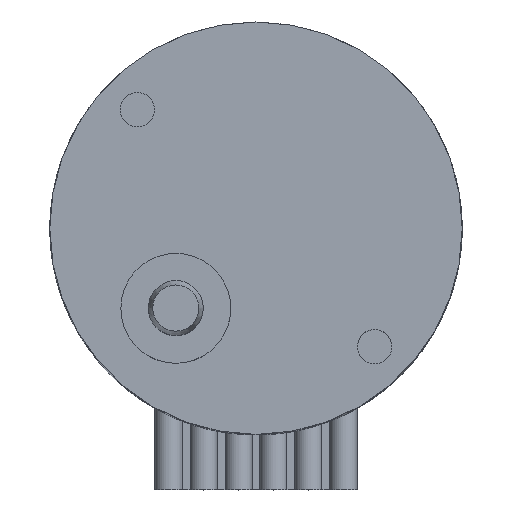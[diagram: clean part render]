
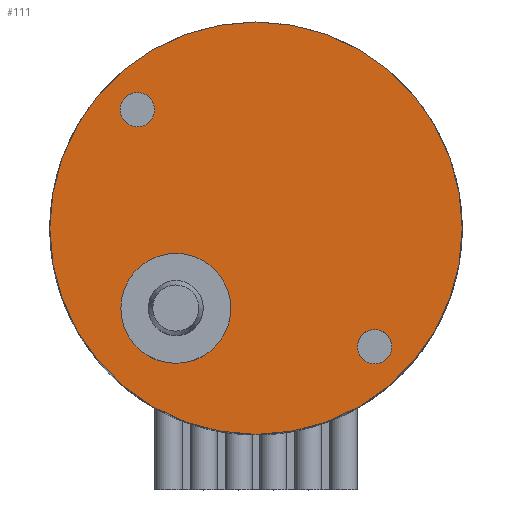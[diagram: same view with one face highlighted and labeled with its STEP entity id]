
A CAD part, top view. The second image highlights one B-rep face of the part: STEP entity #111.
In plain terms, the highlighted planar face has unit normal (0, 0, 1).
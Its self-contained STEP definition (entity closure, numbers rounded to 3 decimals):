
#36=PLANE('',#782);
#67=FACE_BOUND('',#210,.T.);
#68=FACE_BOUND('',#211,.T.);
#69=FACE_BOUND('',#212,.T.);
#70=FACE_BOUND('',#213,.T.);
#111=ADVANCED_FACE('',(#67,#68,#69,#70),#36,.T.);
#210=EDGE_LOOP('',(#350));
#211=EDGE_LOOP('',(#351));
#212=EDGE_LOOP('',(#352));
#213=EDGE_LOOP('',(#353));
#283=CIRCLE('',#776,7.5);
#285=CIRCLE('',#779,2.);
#286=CIRCLE('',#780,0.625);
#287=CIRCLE('',#781,0.625);
#350=ORIENTED_EDGE('',*,*,#598,.F.);
#351=ORIENTED_EDGE('',*,*,#599,.T.);
#352=ORIENTED_EDGE('',*,*,#600,.T.);
#353=ORIENTED_EDGE('',*,*,#596,.F.);
#529=VERTEX_POINT('',#1162);
#531=VERTEX_POINT('',#1167);
#532=VERTEX_POINT('',#1169);
#533=VERTEX_POINT('',#1171);
#596=EDGE_CURVE('',#529,#529,#283,.T.);
#598=EDGE_CURVE('',#531,#531,#285,.T.);
#599=EDGE_CURVE('',#532,#532,#286,.T.);
#600=EDGE_CURVE('',#533,#533,#287,.T.);
#776=AXIS2_PLACEMENT_3D('',#1161,#926,#927);
#779=AXIS2_PLACEMENT_3D('',#1166,#932,#933);
#780=AXIS2_PLACEMENT_3D('',#1168,#934,#935);
#781=AXIS2_PLACEMENT_3D('',#1170,#936,#937);
#782=AXIS2_PLACEMENT_3D('',#1172,#938,#939);
#926=DIRECTION('',(0.,0.,-1.));
#927=DIRECTION('',(1.,0.,0.));
#932=DIRECTION('',(0.,0.,1.));
#933=DIRECTION('',(1.,0.,0.));
#934=DIRECTION('',(0.,0.,-1.));
#935=DIRECTION('',(1.,0.,0.));
#936=DIRECTION('',(0.,0.,-1.));
#937=DIRECTION('',(-1.,0.,0.));
#938=DIRECTION('',(0.,0.,1.));
#939=DIRECTION('',(1.,0.,0.));
#1161=CARTESIAN_POINT('',(0.,0.,0.));
#1162=CARTESIAN_POINT('',(7.5,0.,0.));
#1166=CARTESIAN_POINT('',(-2.917,-2.917,0.));
#1167=CARTESIAN_POINT('',(-0.917,-2.917,0.));
#1168=CARTESIAN_POINT('',(4.313,-4.313,0.));
#1169=CARTESIAN_POINT('',(4.938,-4.313,0.));
#1170=CARTESIAN_POINT('',(-4.313,4.313,0.));
#1171=CARTESIAN_POINT('',(-4.938,4.313,0.));
#1172=CARTESIAN_POINT('',(0.,0.,0.));
